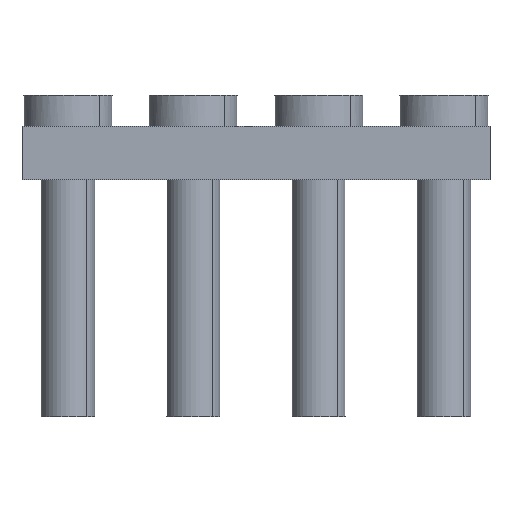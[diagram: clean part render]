
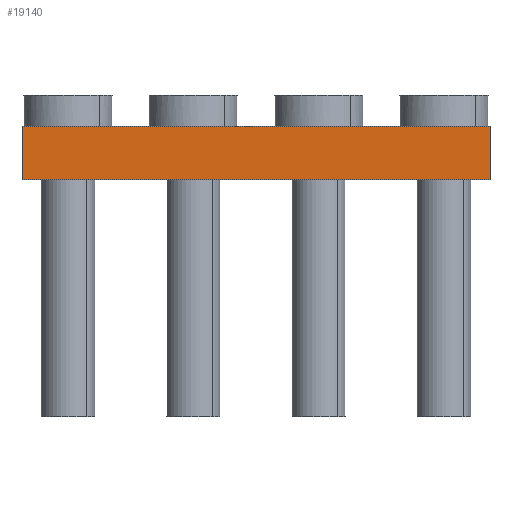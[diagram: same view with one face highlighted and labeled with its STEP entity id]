
A CAD part, front view. The second image highlights one B-rep face of the part: STEP entity #19140.
In plain terms, the highlighted planar face has unit normal (0, -1, 0) as drawn and (0, 0, 1) by its records, which use the part's own axes.
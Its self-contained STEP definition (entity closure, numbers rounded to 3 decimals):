
#1780=CARTESIAN_POINT('',(11.2,15.2,4.7));
#1790=VERTEX_POINT('',#1780);
#3660=CARTESIAN_POINT('',(-19.4,15.2,4.7));
#3670=VERTEX_POINT('',#3660);
#3700=CARTESIAN_POINT('',(-17.752,15.2,4.7));
#3710=DIRECTION('',(-1.,0.,0.));
#3720=VECTOR('',#3710,1.);
#3730=LINE('',#3700,#3720);
#3740=EDGE_CURVE('',#1790,#3670,#3730,.T.);
#4390=CARTESIAN_POINT('',(11.2,15.2,4.7));
#4400=DIRECTION('',(0.,1.,0.));
#4410=VECTOR('',#4400,1.);
#4420=LINE('',#4390,#4410);
#4430=CARTESIAN_POINT('',(11.2,18.7,4.7));
#4440=VERTEX_POINT('',#4430);
#4450=EDGE_CURVE('',#1790,#4440,#4420,.T.);
#15450=CARTESIAN_POINT('',(-19.4,18.7,4.7));
#15460=VERTEX_POINT('',#15450);
#15490=CARTESIAN_POINT('',(-19.4,15.2,4.7));
#15500=DIRECTION('',(0.,1.,0.));
#15510=VECTOR('',#15500,1.);
#15520=LINE('',#15490,#15510);
#15530=EDGE_CURVE('',#3670,#15460,#15520,.T.);
#18980=CARTESIAN_POINT('',(3.,15.2,4.7));
#18990=DIRECTION('',(0.,0.,1.));
#19000=DIRECTION('',(-1.,0.,0.));
#19010=AXIS2_PLACEMENT_3D('',#18980,#18990,#19000);
#19020=PLANE('',#19010);
#19030=ORIENTED_EDGE('',*,*,#15530,.F.);
#19040=CARTESIAN_POINT('',(-11.2,18.7,4.7));
#19050=DIRECTION('',(1.,0.,0.));
#19060=VECTOR('',#19050,1.);
#19070=LINE('',#19040,#19060);
#19080=EDGE_CURVE('',#15460,#4440,#19070,.T.);
#19090=ORIENTED_EDGE('',*,*,#19080,.F.);
#19100=ORIENTED_EDGE('',*,*,#4450,.T.);
#19110=ORIENTED_EDGE('',*,*,#3740,.F.);
#19120=EDGE_LOOP('',(#19110,#19100,#19090,#19030));
#19130=FACE_OUTER_BOUND('',#19120,.T.);
#19140=ADVANCED_FACE('',(#19130),#19020,.T.);
